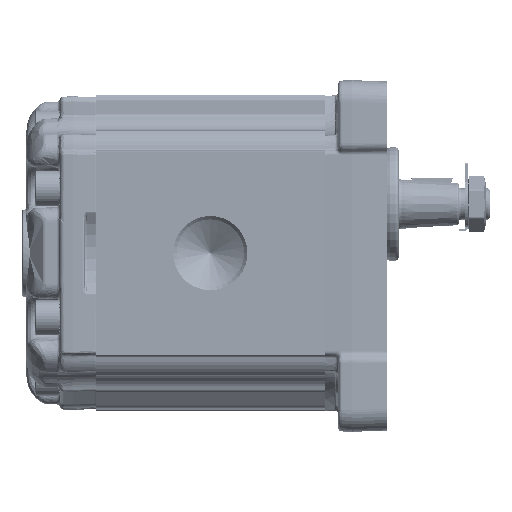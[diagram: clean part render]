
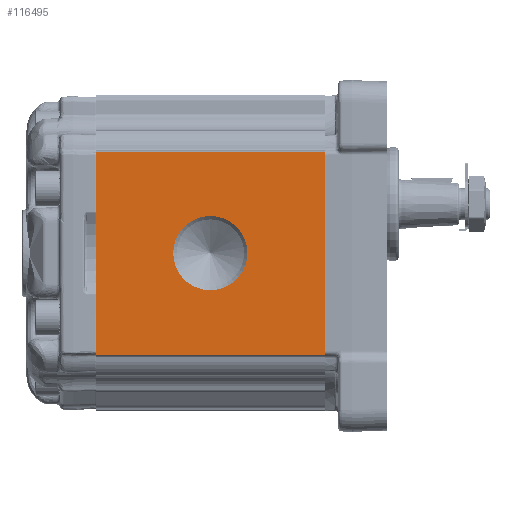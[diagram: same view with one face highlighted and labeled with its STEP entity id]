
A CAD part, left-side view. The second image highlights one B-rep face of the part: STEP entity #116495.
In plain terms, the highlighted planar face has unit normal (-1, 0, 0) as drawn and (1, 0, 0) by its records, which use the part's own axes.
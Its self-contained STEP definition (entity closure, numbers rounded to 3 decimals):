
#6817=PLANE('',#123142);
#9636=LINE('',#179223,#14495);
#9647=LINE('',#179307,#14506);
#9693=LINE('',#179457,#14552);
#9694=LINE('',#179458,#14553);
#14495=VECTOR('',#137034,1000.);
#14506=VECTOR('',#137109,1000.);
#14552=VECTOR('',#137271,1000.);
#14553=VECTOR('',#137272,1000.);
#29595=ORIENTED_EDGE('',*,*,#50536,.T.);
#29596=ORIENTED_EDGE('',*,*,#50415,.F.);
#29597=ORIENTED_EDGE('',*,*,#50537,.T.);
#29598=ORIENTED_EDGE('',*,*,#50457,.F.);
#29599=ORIENTED_EDGE('',*,*,#50538,.T.);
#50415=EDGE_CURVE('',#61752,#61753,#9636,.T.);
#50457=EDGE_CURVE('',#61794,#61795,#9647,.T.);
#50536=EDGE_CURVE('',#61839,#61839,#68621,.F.);
#50537=EDGE_CURVE('',#61752,#61795,#9693,.F.);
#50538=EDGE_CURVE('',#61794,#61753,#9694,.F.);
#61752=VERTEX_POINT('',#179222);
#61753=VERTEX_POINT('',#179224);
#61794=VERTEX_POINT('',#179308);
#61795=VERTEX_POINT('',#179309);
#61839=VERTEX_POINT('',#179456);
#68621=CIRCLE('',#123143,16.646);
#72848=EDGE_LOOP('',(#29595));
#72849=EDGE_LOOP('',(#29596,#29597,#29598,#29599));
#77866=FACE_BOUND('',#72848,.T.);
#77867=FACE_BOUND('',#72849,.T.);
#116495=ADVANCED_FACE('',(#77866,#77867),#6817,.T.);
#123142=AXIS2_PLACEMENT_3D('',#179454,#137267,#137268);
#123143=AXIS2_PLACEMENT_3D('',#179455,#137269,#137270);
#137034=DIRECTION('',(0.,0.,-1.));
#137109=DIRECTION('',(0.,0.,1.));
#137267=DIRECTION('',(1.,0.,0.));
#137268=DIRECTION('',(0.,0.,1.));
#137269=DIRECTION('',(1.,0.,0.));
#137270=DIRECTION('',(0.,0.,1.));
#137271=DIRECTION('',(0.,1.,0.));
#137272=DIRECTION('',(0.,-1.,0.));
#179222=CARTESIAN_POINT('',(57.5,103.,45.5));
#179223=CARTESIAN_POINT('',(57.5,103.,91.388));
#179224=CARTESIAN_POINT('',(57.5,103.,-45.5));
#179307=CARTESIAN_POINT('',(57.5,0.,-44.978));
#179308=CARTESIAN_POINT('',(57.5,0.,-45.5));
#179309=CARTESIAN_POINT('',(57.5,0.,45.5));
#179454=CARTESIAN_POINT('',(57.5,-132.259,91.388));
#179455=CARTESIAN_POINT('',(57.5,51.5,0.));
#179456=CARTESIAN_POINT('',(57.5,51.5,16.646));
#179457=CARTESIAN_POINT('',(57.5,-132.259,45.5));
#179458=CARTESIAN_POINT('',(57.5,-132.259,-45.5));
